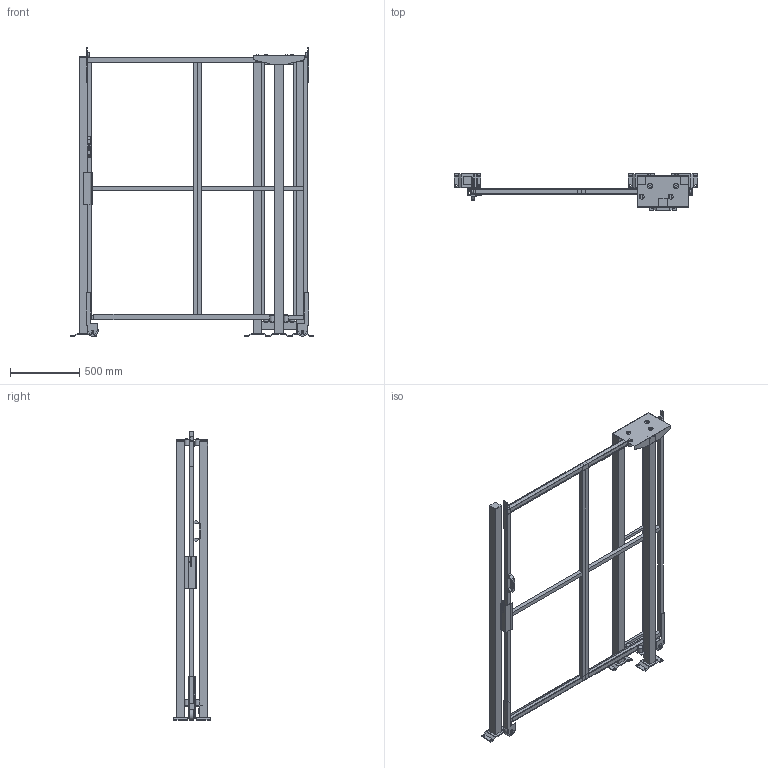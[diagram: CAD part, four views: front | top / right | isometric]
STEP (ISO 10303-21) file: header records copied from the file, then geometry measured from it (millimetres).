
FILE_DESCRIPTION(/* description */ (''),/* implementation_level */ '2;1');
FILE_NAME(/* name */ 'C:\SafeGuarding\ELABORATI\KLADKA_2025-03-18-13-09-03.stp',/* time_stamp */ '2025-03-18T13:09:04+01:00',/* author */ ('admin'),/* organization */ (''),/* preprocessor_version */ 'ST-DEVELOPER v18.1',/* originating_system */ 'AutoCAD Mechanical',/* authorisation */ '');
FILE_SCHEMA (('AUTOMOTIVE_DESIGN { 1 0 10303 214 3 1 1 }','FEATURE_BASED_PROCESS_PLANNING','AP242_MANAGED_MODEL_BASED_3D_ENGINEERING_MIM_LF { 1 0 10303 442 1 1 4 }'));
Length unit declared in the file: millimetre
Products named in the file (4): Product; R_VFPA.REPE30.08001900; R_VFPA.REPE20.02501900; P_VFMA.V260SDU.2020
Assembly tree (7 placements, depth 2):
  Product
    R_VFPA.REPE30.08001900  x2
    R_VFPA.REPE20.02501900
    P_VFMA.V260SDU.2020  x4
Bounding box: 1762.02 x 264.1 x 2090.02 mm (x, y, z)
Volume: 44367254.2 mm3; surface area: 5450675.9 mm2
Topology: 59 solids, 70 shells, 535 faces, 1640 edges, 1659 vertices
Faces by surface type: plane 483, cylinder 50, sphere 2
Full cylindrical faces by diameter (mm): 9 x4, 11 x16, 13 x4, 30 x6, 36 x8, 80 x2
Entity records: 14087 total; most frequent: CARTESIAN_POINT 2979, DIRECTION 2154, ORIENTED_EDGE 1986, EDGE_CURVE 1042, LINE 994, VECTOR 994, VERTEX_POINT 734, AXIS2_PLACEMENT_3D 580
